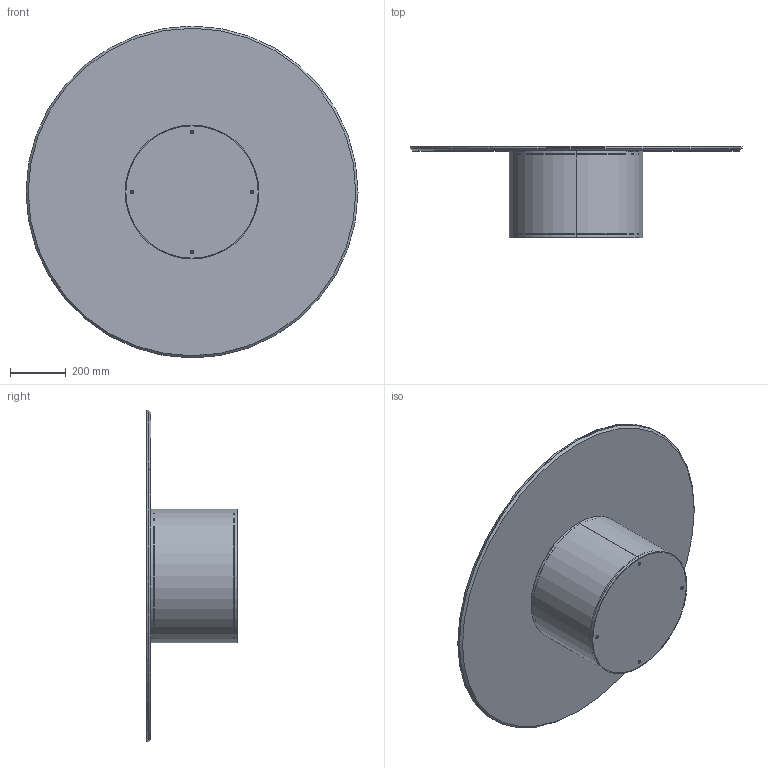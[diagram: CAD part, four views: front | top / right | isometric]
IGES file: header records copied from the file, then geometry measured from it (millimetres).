
Start section: SolidWorks IGES file using analytic representation for surfaces
Global section: file name: Y:\eforma\TECNICO\SOLIDWORKS\E-FORMA\2-TAVOLINI\CILINDRO LOW\02 parts\CL14GC.IGS; native system: SolidWorks 2022; preprocessor: SolidWorks 2022; author: eforma.tech; date: 240806.121826; units: millimetre
Bounding box: 1190 x 326 x 1190 mm (x, y, z)
Volume: 21188902.6 mm3; surface area: 6181081.5 mm2
Topology: 13 solids, 13 shells, 237 faces, 509 edges, 294 vertices
Faces by surface type: revolution 123, plane 112, bspline 2
